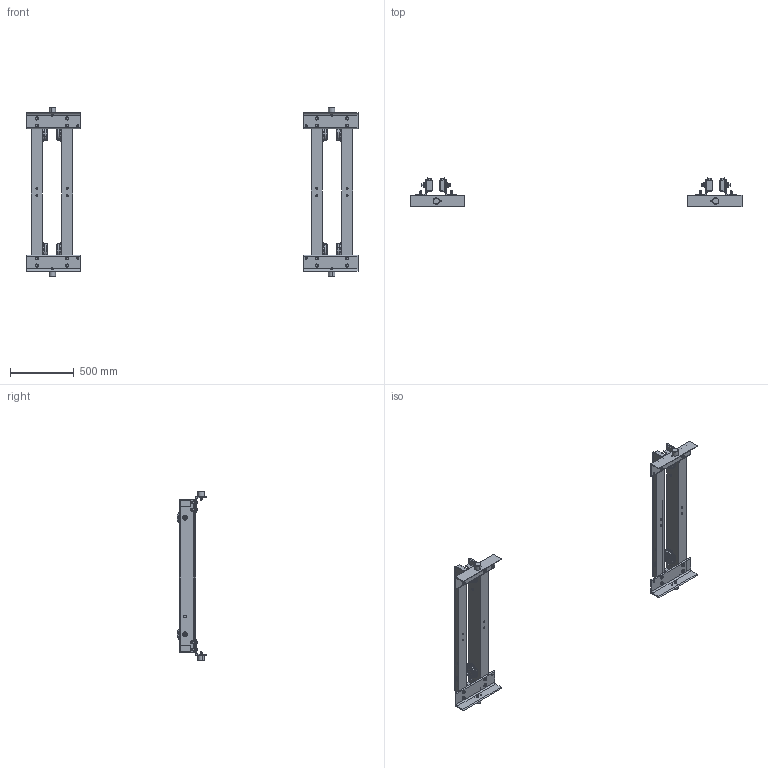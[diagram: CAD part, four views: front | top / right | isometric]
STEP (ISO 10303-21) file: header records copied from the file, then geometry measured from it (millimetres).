
FILE_DESCRIPTION (( 'STEP AP214' ), '1' );
FILE_NAME ('HPC510 Bottom.STEP', '2026-08-11T19:31:28', ( '' ), ( '' ), 'SwSTEP 2.0', 'SolidWorks 2026', '' );
FILE_SCHEMA (( 'AUTOMOTIVE_DESIGN' ));
Length unit declared in the file: inch
Products named in the file (20): 62675_S10X25.4; 9003908_94846A537; 9093433_9093433; A500-308-005_17.000 INCH; 9093374_9093374; 52390; HPC510 Bottom; 9005212_9005212; 52390-01; 9003903_9003903; HPC510 Bottom (Half Pair)_S10X25.4; A500-308-005_47; A112-112-004_3.5; 9200012; 9004603; 9012515_9012515; 62676_S10X25.4; 9005317_9005317; 52390-02
Assembly tree (75 placements, depth 5):
  HPC510 Bottom
    HPC510 Bottom (Half Pair)_S10X25.4  x2
      52390
        52390-01
          A500-308-005_47
        52390-02  x2
          A112-112-004_3.5
      62675_S10X25.4
        A500-308-005_17.000 INCH
      62676_S10X25.4
        A500-308-005_17.000 INCH
      9003903_9003903
      9005212_9005212
      9005317_9005317
      9003908_94846A537
      9004603
      9012515_9012515
      9093433_9093433
      9093374_9093374
      9200012
Bounding box: 2606.68 x 233.31 x 1327.16 mm (x, y, z)
Volume: 13153525.2 mm3; surface area: 3466963.4 mm2
Topology: 140 solids, 140 shells, 3292 faces, 7120 edges, 4192 vertices
Faces by surface type: cone 1216, plane 1004, cylinder 864, torus 208
Entity records: 12134 total; most frequent: CARTESIAN_POINT 3097, DIRECTION 1846, ORIENTED_EDGE 1544, AXIS2_PLACEMENT_3D 778, EDGE_CURVE 772, VERTEX_POINT 468, EDGE_LOOP 406, CIRCLE 354
